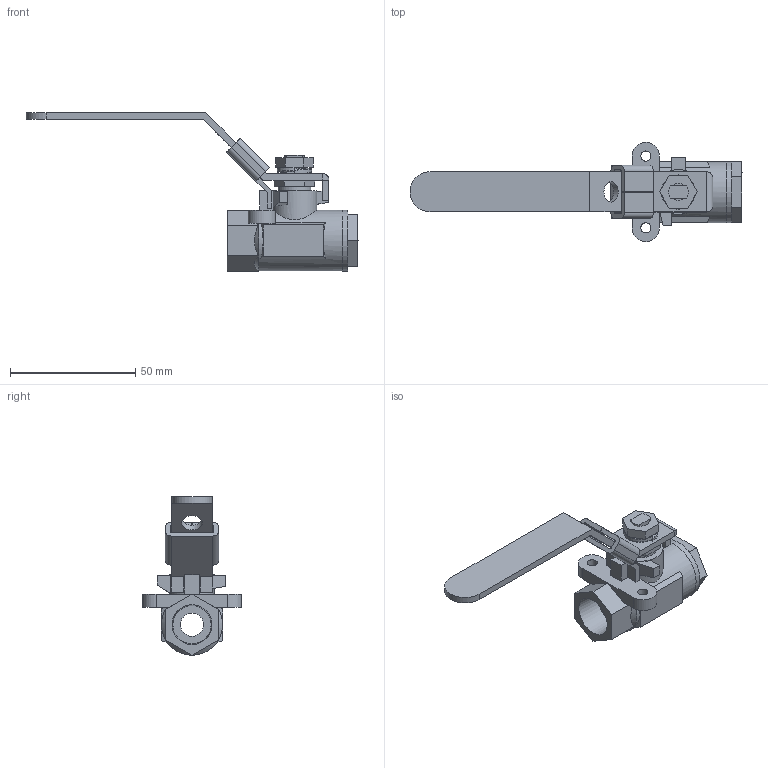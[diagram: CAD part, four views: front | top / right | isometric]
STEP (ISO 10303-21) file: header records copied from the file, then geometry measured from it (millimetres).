
FILE_DESCRIPTION((' '),'2;1');
FILE_NAME('N:\Technical Support\Private\Jomar Valve CAD\Ball Valves\CS and SS\2000N\.375 T-CS[SS]-2000N (100-952 [100-932])FusionCopy.stp.step','2017-03-03T11:25:19',(' '),(' '),' ','ACIS',' ');
FILE_SCHEMA(('CONFIG_CONTROL_DESIGN'));
Length unit declared in the file: inch
Products named in the file (9): N:\Technical Support\Private\Jomar Valve CAD\Ball Valves\CS and SS\2000N\.375 T-CS[SS]-2000N (100-952 [100-932])FusionCopy.stp.step; Body1; Body2; Body3; Body4; Body5; Body6; Body7; Body8
Assembly tree (8 placements, depth 2):
  N:\Technical Support\Private\Jomar Valve CAD\Ball Valves\CS and SS\2000N\.375 T-CS[SS]-2000N (100-952 [100-932])FusionCopy.stp.step
    Body1
    Body2
    Body3
    Body4
    Body5
    Body6
    Body7
    Body8
Bounding box: 132.38 x 39.55 x 63.21 mm (x, y, z)
Volume: 30009.3 mm3; surface area: 17845.2 mm2
Topology: 8 solids, 8 shells, 170 faces, 436 edges, 285 vertices
Faces by surface type: plane 110, cylinder 29, bspline 15, cone 12, torus 4
Full cylindrical faces by diameter (mm): 4.064 x2, 6.858 x1, 8.128 x1, 8.89 x1, 9.271 x2, 13.081 x1, 24.384 x2
Entity records: 6329 total; most frequent: CARTESIAN_POINT 994, DIRECTION 845, ORIENTED_EDGE 830, EDGE_CURVE 415, VECTOR 301, LINE 301, VERTEX_POINT 278, AXIS2_PLACEMENT_3D 272
